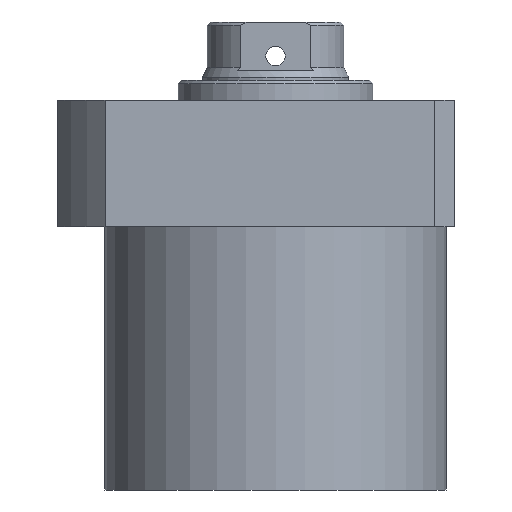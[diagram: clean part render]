
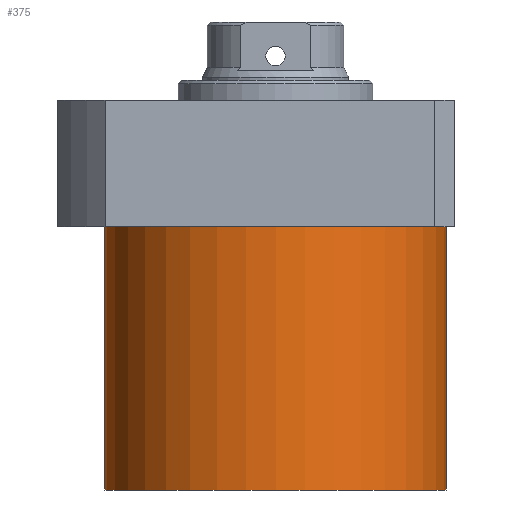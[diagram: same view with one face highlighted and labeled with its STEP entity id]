
A CAD part, front view. The second image highlights one B-rep face of the part: STEP entity #375.
In plain terms, the highlighted cylindrical face has radius 52.5 mm (diameter 105 mm), a partial arc.
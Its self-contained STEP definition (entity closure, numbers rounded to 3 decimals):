
#46 = EDGE_CURVE ( 'NONE', #556, #486, #215, .T. ) ;
#57 = ORIENTED_EDGE ( 'NONE', *, *, #135, .T. ) ;
#109 = CARTESIAN_POINT ( 'NONE',  ( -52.5, 0., -19.5 ) ) ;
#135 = EDGE_CURVE ( 'NONE', #1244, #556, #1895, .T. ) ;
#142 = AXIS2_PLACEMENT_3D ( 'NONE', #1439, #768, #2097 ) ;
#215 = CIRCLE ( 'NONE', #1658, 52.5 ) ;
#222 = ORIENTED_EDGE ( 'NONE', *, *, #564, .F. ) ;
#249 = ORIENTED_EDGE ( 'NONE', *, *, #46, .T. ) ;
#375 = ADVANCED_FACE ( 'NONE', ( #1812 ), #1994, .T. ) ;
#467 = CIRCLE ( 'NONE', #694, 52.5 ) ;
#484 = EDGE_LOOP ( 'NONE', ( #1772, #222, #57, #249 ) ) ;
#486 = VERTEX_POINT ( 'NONE', #109 ) ;
#556 = VERTEX_POINT ( 'NONE', #1784 ) ;
#564 = EDGE_CURVE ( 'NONE', #1244, #1525, #467, .T. ) ;
#576 = VECTOR ( 'NONE', #1583, 1000. ) ;
#627 = VECTOR ( 'NONE', #1472, 1000. ) ;
#694 = AXIS2_PLACEMENT_3D ( 'NONE', #1641, #1312, #801 ) ;
#738 = DIRECTION ( 'NONE',  ( 0., 0., -1. ) ) ;
#768 = DIRECTION ( 'NONE',  ( 0., 0., 1. ) ) ;
#801 = DIRECTION ( 'NONE',  ( -1., 0., 0. ) ) ;
#876 = LINE ( 'NONE', #1757, #576 ) ;
#907 = DIRECTION ( 'NONE',  ( 1., 0., 0. ) ) ;
#1098 = CARTESIAN_POINT ( 'NONE',  ( -52.5, 0., -100.5 ) ) ;
#1244 = VERTEX_POINT ( 'NONE', #1882 ) ;
#1297 = CARTESIAN_POINT ( 'NONE',  ( 52.5, 0., -100.5 ) ) ;
#1312 = DIRECTION ( 'NONE',  ( 0., 0., -1. ) ) ;
#1439 = CARTESIAN_POINT ( 'NONE',  ( 0., 0., -100.5 ) ) ;
#1472 = DIRECTION ( 'NONE',  ( 0., 0., 1. ) ) ;
#1525 = VERTEX_POINT ( 'NONE', #1098 ) ;
#1583 = DIRECTION ( 'NONE',  ( 0., 0., 1. ) ) ;
#1641 = CARTESIAN_POINT ( 'NONE',  ( 0., 0., -100.5 ) ) ;
#1658 = AXIS2_PLACEMENT_3D ( 'NONE', #2101, #738, #907 ) ;
#1757 = CARTESIAN_POINT ( 'NONE',  ( -52.5, 0., -100.5 ) ) ;
#1772 = ORIENTED_EDGE ( 'NONE', *, *, #1858, .F. ) ;
#1784 = CARTESIAN_POINT ( 'NONE',  ( 52.5, 0., -19.5 ) ) ;
#1812 = FACE_OUTER_BOUND ( 'NONE', #484, .T. ) ;
#1858 = EDGE_CURVE ( 'NONE', #1525, #486, #876, .T. ) ;
#1882 = CARTESIAN_POINT ( 'NONE',  ( 52.5, 0., -100.5 ) ) ;
#1895 = LINE ( 'NONE', #1297, #627 ) ;
#1994 = CYLINDRICAL_SURFACE ( 'NONE', #142, 52.5 ) ;
#2097 = DIRECTION ( 'NONE',  ( 1., 0., 0. ) ) ;
#2101 = CARTESIAN_POINT ( 'NONE',  ( 0., 0., -19.5 ) ) ;
